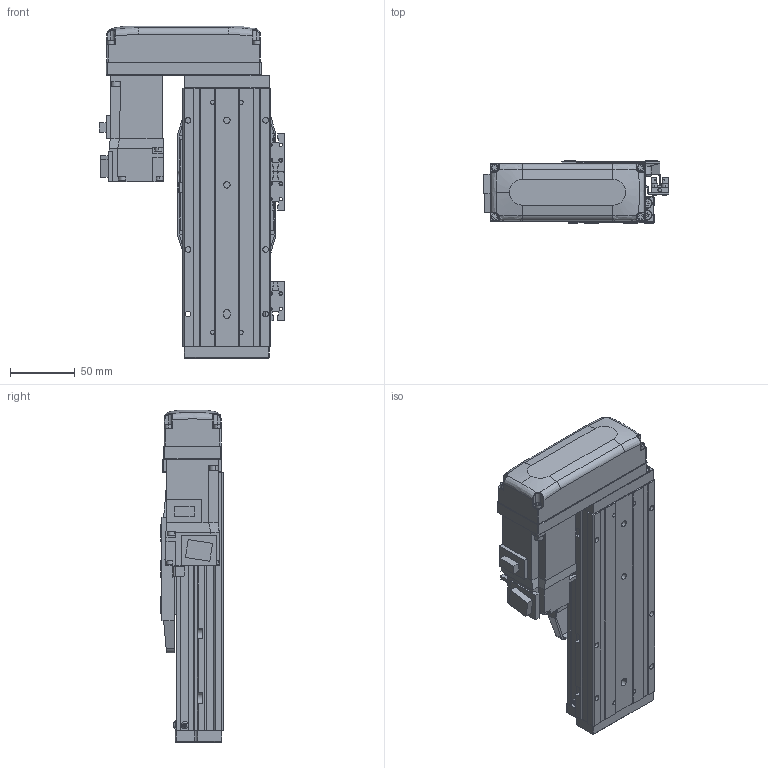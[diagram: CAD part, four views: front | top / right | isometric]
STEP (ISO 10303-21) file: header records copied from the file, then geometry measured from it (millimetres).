
FILE_DESCRIPTION (( 'STEP AP203' ), '1' );
FILE_NAME ('CTHA60-50-BR-M10-C4L.step', '2022-03-19T06:22:22', ( '微软用户' ), ( '微软中国' ), 'SwSTEP 2.0', 'SolidWorks 2020', '' );
FILE_SCHEMA (( 'CONFIG_CONTROL_DESIGN' ));
Length unit declared in the file: millimetre
Products named in the file (18): CTHA60-002; CTHA60-001_200; GBT 70.1-M4×16; CTHA60-031; CTHA60-004; GBT77-2000 M3×3; CTHA60-006-1; CTHA60-005; GBT 70.1-M3℅6; CTHA60-033; GB¨uT 70.2-M3¡Á6_M3¡Á6; GBT 70.3-M3℅6; CTHA60-50-BR-M10-C4L; EE_SX911P_R; CTHA60-016; CTHA60-017; HG-KR13（三菱）; CTHA60-021
Assembly tree (54 placements, depth 2):
  CTHA60-50-BR-M10-C4L
    CTHA60-001_200
    CTHA60-004
    CTHA60-005
    GB¨uT 70.2-M3¡Á6_M3¡Á6  x10
    EE_SX911P_R  x3
    CTHA60-017  x3
    CTHA60-021  x2
    GBT 70.1-M4×16  x10
    GBT77-2000 M3×3  x6
    GBT 70.1-M3℅6  x6
    GBT 70.3-M3℅6  x4
    CTHA60-016  x2
    HG-KR13（三菱）
    CTHA60-002
    CTHA60-031
    CTHA60-006-1
    CTHA60-033
Bounding box: 143.62 x 48 x 257 mm (x, y, z)
Volume: 623962.6 mm3; surface area: 211842.3 mm2
Topology: 56 solids, 56 shells, 2434 faces, 5813 edges, 3577 vertices
Faces by surface type: plane 1401, cylinder 553, cone 332, torus 92, bspline 32, sphere 24
Entity records: 42427 total; most frequent: CARTESIAN_POINT 8250, DIRECTION 6506, ORIENTED_EDGE 6434, EDGE_CURVE 3217, VECTOR 2274, LINE 2274, AXIS2_PLACEMENT_3D 2116, VERTEX_POINT 2036
